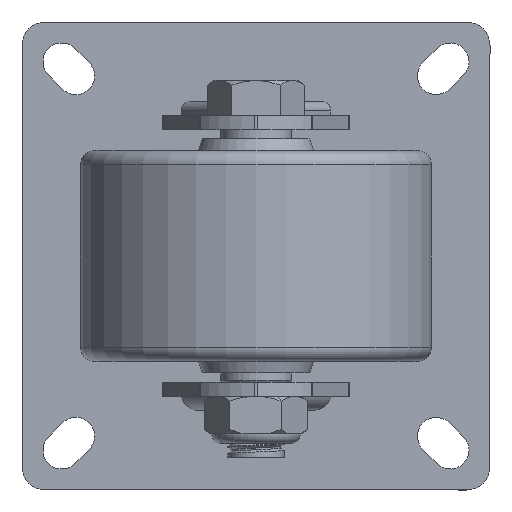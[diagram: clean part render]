
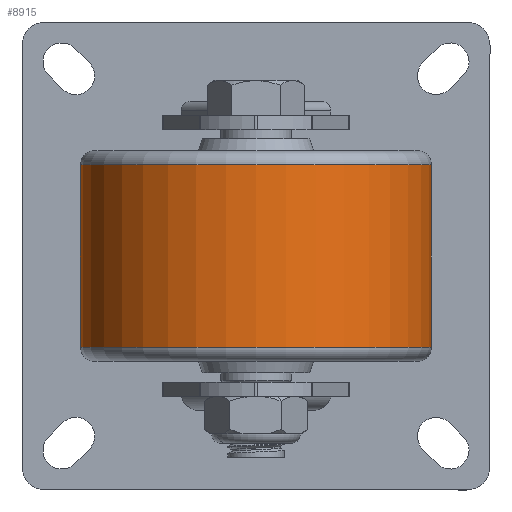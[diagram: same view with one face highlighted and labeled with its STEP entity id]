
A CAD part, front view. The second image highlights one B-rep face of the part: STEP entity #8915.
In plain terms, the highlighted cylindrical face has radius 37.5 mm (diameter 75 mm), a partial arc.
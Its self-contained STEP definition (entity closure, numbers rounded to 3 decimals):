
#702 = AXIS2_PLACEMENT_3D ( 'NONE', #11708, #11444, #3118 ) ;
#1572 = CARTESIAN_POINT ( 'NONE',  ( 0., -19.5, 37.5 ) ) ;
#3118 = DIRECTION ( 'NONE',  ( 0., 0., -1. ) ) ;
#3183 = EDGE_CURVE ( 'NONE', #3594, #14005, #20109, .T. ) ;
#3234 = AXIS2_PLACEMENT_3D ( 'NONE', #4078, #18391, #16707 ) ;
#3594 = VERTEX_POINT ( 'NONE', #15462 ) ;
#3762 = ORIENTED_EDGE ( 'NONE', *, *, #17406, .F. ) ;
#3902 = VECTOR ( 'NONE', #19756, 1000. ) ;
#4078 = CARTESIAN_POINT ( 'NONE',  ( 0., 19.5, 0. ) ) ;
#5060 = CYLINDRICAL_SURFACE ( 'NONE', #702, 37.5 ) ;
#5067 = VECTOR ( 'NONE', #10288, 1000. ) ;
#5162 = CARTESIAN_POINT ( 'NONE',  ( 0., 19.5, -37.5 ) ) ;
#5812 = VERTEX_POINT ( 'NONE', #1572 ) ;
#8205 = LINE ( 'NONE', #18502, #5067 ) ;
#8915 = ADVANCED_FACE ( 'NONE', ( #15609 ), #5060, .T. ) ;
#10288 = DIRECTION ( 'NONE',  ( 0., -1., 0. ) ) ;
#10568 = DIRECTION ( 'NONE',  ( 0., 1., 0. ) ) ;
#11444 = DIRECTION ( 'NONE',  ( 0., -1., 0. ) ) ;
#11708 = CARTESIAN_POINT ( 'NONE',  ( 0., 0., 0. ) ) ;
#12600 = ORIENTED_EDGE ( 'NONE', *, *, #3183, .T. ) ;
#14005 = VERTEX_POINT ( 'NONE', #5162 ) ;
#15285 = LINE ( 'NONE', #26155, #3902 ) ;
#15462 = CARTESIAN_POINT ( 'NONE',  ( 0., 19.5, 37.5 ) ) ;
#15609 = FACE_OUTER_BOUND ( 'NONE', #24717, .T. ) ;
#16389 = ORIENTED_EDGE ( 'NONE', *, *, #26775, .T. ) ;
#16707 = DIRECTION ( 'NONE',  ( 0., 0., 1. ) ) ;
#17406 = EDGE_CURVE ( 'NONE', #3594, #5812, #15285, .T. ) ;
#18391 = DIRECTION ( 'NONE',  ( 0., -1., 0. ) ) ;
#18459 = VERTEX_POINT ( 'NONE', #18769 ) ;
#18502 = CARTESIAN_POINT ( 'NONE',  ( 0., 0., -37.5 ) ) ;
#18769 = CARTESIAN_POINT ( 'NONE',  ( 0., -19.5, -37.5 ) ) ;
#19199 = CARTESIAN_POINT ( 'NONE',  ( 0., -19.5, 0. ) ) ;
#19756 = DIRECTION ( 'NONE',  ( 0., -1., 0. ) ) ;
#20109 = CIRCLE ( 'NONE', #3234, 37.5 ) ;
#20822 = CIRCLE ( 'NONE', #21254, 37.5 ) ;
#21254 = AXIS2_PLACEMENT_3D ( 'NONE', #19199, #10568, #21583 ) ;
#21583 = DIRECTION ( 'NONE',  ( 0., 0., -1. ) ) ;
#24717 = EDGE_LOOP ( 'NONE', ( #3762, #12600, #16389, #26805 ) ) ;
#26155 = CARTESIAN_POINT ( 'NONE',  ( 0., 0., 37.5 ) ) ;
#26775 = EDGE_CURVE ( 'NONE', #14005, #18459, #8205, .T. ) ;
#26805 = ORIENTED_EDGE ( 'NONE', *, *, #27080, .T. ) ;
#27080 = EDGE_CURVE ( 'NONE', #18459, #5812, #20822, .T. ) ;
